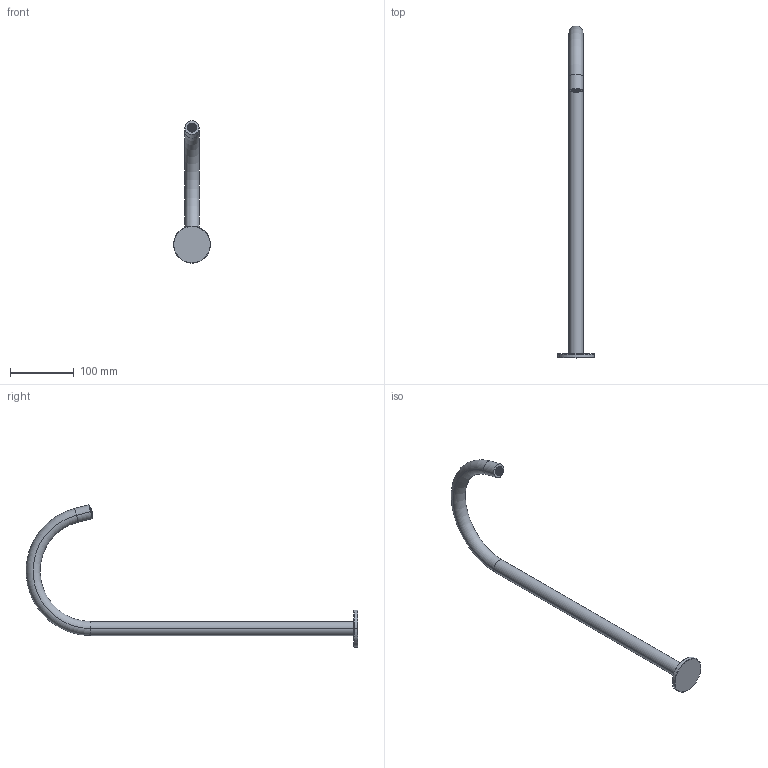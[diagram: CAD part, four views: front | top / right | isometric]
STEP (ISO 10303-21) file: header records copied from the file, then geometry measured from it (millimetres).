
FILE_DESCRIPTION((''),'2;1');
FILE_NAME('50000Z3460000000_SW0001','2024-10-10T10:40:40',('cristian.dorz'),(''),'CREO PARAMETRIC BY PTC INC, 2022281','CREO PARAMETRIC BY PTC INC, 2022281','');
FILE_SCHEMA(('AUTOMOTIVE_DESIGN { 1 0 10303 214 1 1 1 1 }'));
Length unit declared in the file: millimetre
Products named in the file (1): 50000Z3460000000_SW0001
Bounding box: 58 x 519.24 x 222.5 mm (x, y, z)
Volume: 228710.5 mm3; surface area: 67999.7 mm2
Topology: 1 solids, 2 shells, 236 faces, 628 edges, 418 vertices
Faces by surface type: plane 214, cylinder 8, torus 6, sphere 4, cone 4
Entity records: 7902 total; most frequent: CARTESIAN_POINT 1579, DIRECTION 1357, ORIENTED_EDGE 1240, EDGE_CURVE 620, AXIS2_PLACEMENT_3D 483, VERTEX_POINT 410, VECTOR 388, LINE 388
